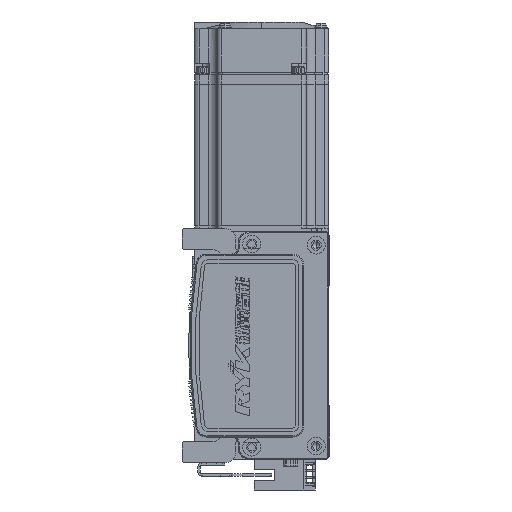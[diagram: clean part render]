
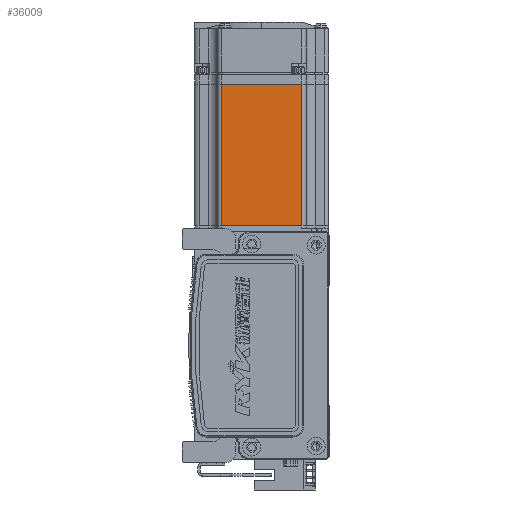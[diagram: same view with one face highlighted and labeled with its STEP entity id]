
A CAD part, left-side view. The second image highlights one B-rep face of the part: STEP entity #36009.
In plain terms, the highlighted planar face has unit normal (-1, 0, 0) as drawn and (0, 0, -1) by its records, which use the part's own axes.
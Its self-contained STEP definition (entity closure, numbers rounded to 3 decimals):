
#159 = CARTESIAN_POINT ( 'NONE',  ( -70.95, -18., -30. ) ) ;
#1707 = CARTESIAN_POINT ( 'NONE',  ( -7.75, 25., -30. ) ) ;
#2520 = CARTESIAN_POINT ( 'NONE',  ( -70.95, 18., -30. ) ) ;
#2846 = EDGE_CURVE ( 'NONE', #51463, #5552, #59422, .T. ) ;
#3356 = DIRECTION ( 'NONE',  ( -1., 0., 0. ) ) ;
#5552 = VERTEX_POINT ( 'NONE', #39657 ) ;
#9474 = CARTESIAN_POINT ( 'NONE',  ( -6.5, 18., -30. ) ) ;
#12851 = EDGE_LOOP ( 'NONE', ( #58960, #20045, #26214, #65598 ) ) ;
#17236 = LINE ( 'NONE', #38941, #58626 ) ;
#17934 = DIRECTION ( 'NONE',  ( 0., 1., 0. ) ) ;
#18457 = VECTOR ( 'NONE', #49914, 1000. ) ;
#20045 = ORIENTED_EDGE ( 'NONE', *, *, #57732, .T. ) ;
#23527 = VECTOR ( 'NONE', #36398, 1000. ) ;
#25803 = VERTEX_POINT ( 'NONE', #159 ) ;
#26214 = ORIENTED_EDGE ( 'NONE', *, *, #50866, .T. ) ;
#26692 = EDGE_CURVE ( 'NONE', #50967, #51463, #59821, .T. ) ;
#27311 = VECTOR ( 'NONE', #55620, 1000. ) ;
#34827 = CARTESIAN_POINT ( 'NONE',  ( -7.75, 18., -30. ) ) ;
#36009 = ADVANCED_FACE ( 'NONE', ( #65566 ), #47096, .T. ) ;
#36398 = DIRECTION ( 'NONE',  ( 1., 0., 0. ) ) ;
#38941 = CARTESIAN_POINT ( 'NONE',  ( -70.95, 25., -30. ) ) ;
#39657 = CARTESIAN_POINT ( 'NONE',  ( -7.75, -18., -30. ) ) ;
#44740 = AXIS2_PLACEMENT_3D ( 'NONE', #46630, #63137, #3356 ) ;
#46630 = CARTESIAN_POINT ( 'NONE',  ( -6.5, 25., -30. ) ) ;
#47096 = PLANE ( 'NONE',  #44740 ) ;
#49677 = CARTESIAN_POINT ( 'NONE',  ( -6.5, -18., -30. ) ) ;
#49914 = DIRECTION ( 'NONE',  ( -1., 0., 0. ) ) ;
#50866 = EDGE_CURVE ( 'NONE', #25803, #50967, #17236, .T. ) ;
#50967 = VERTEX_POINT ( 'NONE', #2520 ) ;
#51463 = VERTEX_POINT ( 'NONE', #34827 ) ;
#55620 = DIRECTION ( 'NONE',  ( 0., -1., 0. ) ) ;
#57732 = EDGE_CURVE ( 'NONE', #5552, #25803, #59005, .T. ) ;
#58626 = VECTOR ( 'NONE', #17934, 1000. ) ;
#58960 = ORIENTED_EDGE ( 'NONE', *, *, #2846, .T. ) ;
#59005 = LINE ( 'NONE', #49677, #18457 ) ;
#59422 = LINE ( 'NONE', #1707, #27311 ) ;
#59821 = LINE ( 'NONE', #9474, #23527 ) ;
#63137 = DIRECTION ( 'NONE',  ( 0., 0., -1. ) ) ;
#65566 = FACE_OUTER_BOUND ( 'NONE', #12851, .T. ) ;
#65598 = ORIENTED_EDGE ( 'NONE', *, *, #26692, .T. ) ;
